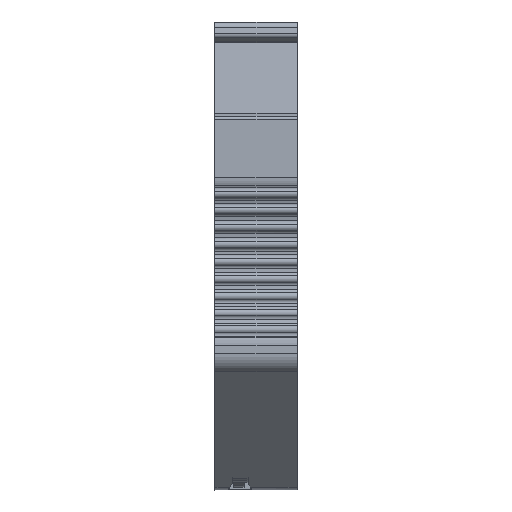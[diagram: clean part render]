
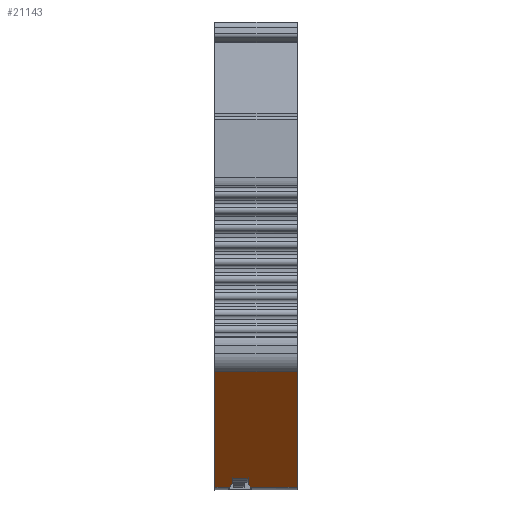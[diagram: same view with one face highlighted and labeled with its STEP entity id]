
A CAD part, left-side view. The second image highlights one B-rep face of the part: STEP entity #21143.
In plain terms, the highlighted planar face has unit normal (-0.446, 0, -0.895).
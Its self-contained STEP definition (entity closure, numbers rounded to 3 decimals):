
#2281=DIRECTION('',(0.895,0.,-0.446));
#2282=VECTOR('',#2281,19.528);
#2283=CARTESIAN_POINT('',(-75.069,-6.2,
8.922));
#2284=LINE('',#2283,#2282);
#2922=DIRECTION('',(-0.895,0.,0.446));
#2923=VECTOR('',#2922,19.528);
#2924=CARTESIAN_POINT('',(-57.592,0.,
0.21));
#2925=LINE('',#2924,#2923);
#4655=DIRECTION('',(0.,-1.,0.));
#4656=VECTOR('',#4655,6.2);
#4657=CARTESIAN_POINT('',(-75.069,0.,
8.922));
#4658=LINE('',#4657,#4656);
#4672=DIRECTION('',(0.865,0.259,-0.431));
#4673=VECTOR('',#4672,0.673);
#4674=CARTESIAN_POINT('',(-58.174,-1.3,
0.5));
#4675=LINE('',#4674,#4673);
#4745=DIRECTION('',(0.895,0.,-0.446));
#4746=VECTOR('',#4745,0.811);
#4747=CARTESIAN_POINT('',(-58.9,-1.3,
0.862));
#4748=LINE('',#4747,#4746);
#4995=DIRECTION('',(0.,1.,0.));
#4996=VECTOR('',#4995,1.2);
#4997=CARTESIAN_POINT('',(-58.9,-2.5,
0.862));
#4998=LINE('',#4997,#4996);
#5208=DIRECTION('',(-0.895,0.,0.446));
#5209=VECTOR('',#5208,0.811);
#5210=CARTESIAN_POINT('',(-58.174,-2.5,
0.5));
#5211=LINE('',#5210,#5209);
#11070=DIRECTION('',(-0.865,0.259,0.431));
#11071=VECTOR('',#11070,0.673);
#11072=CARTESIAN_POINT('',(-57.592,-2.674,
0.21));
#11073=LINE('',#11072,#11071);
#11094=DIRECTION('',(0.,1.,0.));
#11095=VECTOR('',#11094,3.526);
#11096=CARTESIAN_POINT('',(-57.592,-6.2,
0.21));
#11097=LINE('',#11096,#11095);
#11414=DIRECTION('',(0.,1.,0.));
#11415=VECTOR('',#11414,1.126);
#11416=CARTESIAN_POINT('',(-57.592,-1.126,
0.21));
#11417=LINE('',#11416,#11415);
#13781=CARTESIAN_POINT('',(-57.592,-6.2,
0.21));
#13782=VERTEX_POINT('',#13781);
#13783=CARTESIAN_POINT('',(-57.592,-2.674,
0.21));
#13784=VERTEX_POINT('',#13783);
#13785=CARTESIAN_POINT('',(-58.174,-2.5,
0.5));
#13787=VERTEX_POINT('',#13785);
#13907=CARTESIAN_POINT('',(-58.9,-2.5,
0.862));
#13908=VERTEX_POINT('',#13907);
#13909=CARTESIAN_POINT('',(-58.9,-1.3,
0.862));
#13910=VERTEX_POINT('',#13909);
#13917=CARTESIAN_POINT('',(-58.174,-1.3,
0.5));
#13918=VERTEX_POINT('',#13917);
#13919=CARTESIAN_POINT('',(-57.592,-1.126,
0.21));
#13920=VERTEX_POINT('',#13919);
#13921=CARTESIAN_POINT('',(-57.592,0.,
0.21));
#13922=VERTEX_POINT('',#13921);
#13923=CARTESIAN_POINT('',(-75.069,-6.2,
8.922));
#13924=VERTEX_POINT('',#13923);
#13925=CARTESIAN_POINT('',(-75.069,0.,
8.922));
#13926=VERTEX_POINT('',#13925);
#21119=CARTESIAN_POINT('',(-66.331,-3.1,
4.566));
#21120=DIRECTION('',(0.446,0.,0.895));
#21121=DIRECTION('',(0.,-1.,0.));
#21122=AXIS2_PLACEMENT_3D('',#21119,#21120,#21121);
#21123=PLANE('',#21122);
#21125=ORIENTED_EDGE('',*,*,#21124,.T.);
#21127=ORIENTED_EDGE('',*,*,#21126,.T.);
#21128=ORIENTED_EDGE('',*,*,#19168,.T.);
#21129=ORIENTED_EDGE('',*,*,#21111,.T.);
#21130=ORIENTED_EDGE('',*,*,#18884,.T.);
#21132=ORIENTED_EDGE('',*,*,#21131,.T.);
#21134=ORIENTED_EDGE('',*,*,#21133,.T.);
#21136=ORIENTED_EDGE('',*,*,#21135,.T.);
#21138=ORIENTED_EDGE('',*,*,#21137,.T.);
#21140=ORIENTED_EDGE('',*,*,#21139,.T.);
#21141=EDGE_LOOP('',(#21125,#21127,#21128,#21129,#21130,#21132,#21134,#21136,
#21138,#21140));
#21142=FACE_OUTER_BOUND('',#21141,.F.);
#21143=ADVANCED_FACE('',(#21142),#21123,.F.);
#18884=EDGE_CURVE('',#13924,#13782,#2284,.T.);
#19168=EDGE_CURVE('',#13922,#13926,#2925,.T.);
#21111=EDGE_CURVE('',#13926,#13924,#4658,.T.);
#21124=EDGE_CURVE('',#13918,#13920,#4675,.T.);
#21126=EDGE_CURVE('',#13920,#13922,#11417,.T.);
#21131=EDGE_CURVE('',#13782,#13784,#11097,.T.);
#21133=EDGE_CURVE('',#13784,#13787,#11073,.T.);
#21135=EDGE_CURVE('',#13787,#13908,#5211,.T.);
#21137=EDGE_CURVE('',#13908,#13910,#4998,.T.);
#21139=EDGE_CURVE('',#13910,#13918,#4748,.T.);
